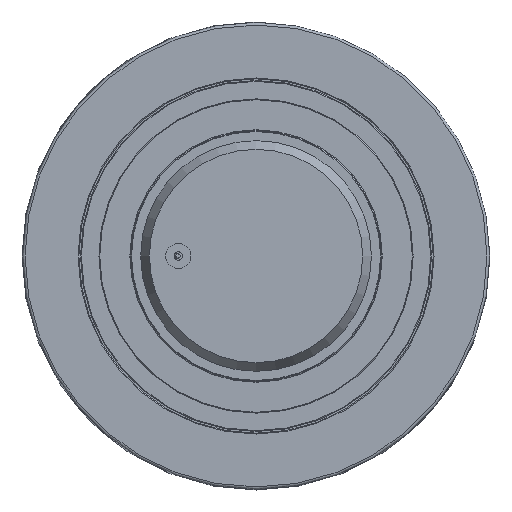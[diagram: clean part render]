
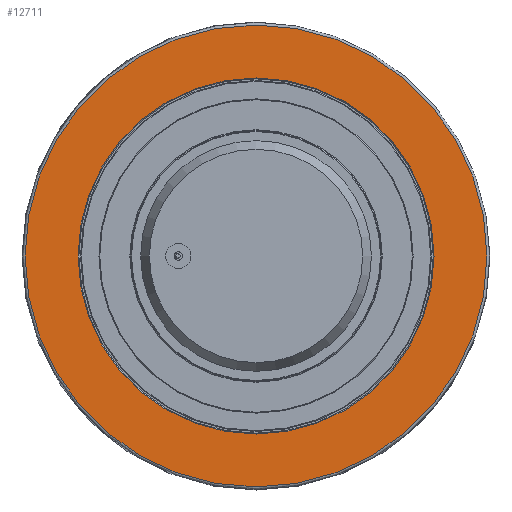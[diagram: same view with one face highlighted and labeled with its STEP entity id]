
A CAD part, left-side view. The second image highlights one B-rep face of the part: STEP entity #12711.
In plain terms, the highlighted planar face has unit normal (-1, 0, 0).
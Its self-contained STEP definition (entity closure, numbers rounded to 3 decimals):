
#55=FACE_BOUND('',#1270,.T.);
#80=PLANE('',#14655);
#611=FACE_OUTER_BOUND('',#1269,.T.);
#1269=EDGE_LOOP('',(#9696,#9697));
#1270=EDGE_LOOP('',(#9698));
#2929=CIRCLE('',#14473,138.148);
#2930=CIRCLE('',#14474,138.148);
#3109=CIRCLE('',#14656,106.5);
#5522=VERTEX_POINT('',#23622);
#5523=VERTEX_POINT('',#23624);
#5616=VERTEX_POINT('',#23902);
#7144=EDGE_CURVE('',#5522,#5523,#2929,.T.);
#7145=EDGE_CURVE('',#5523,#5522,#2930,.T.);
#7326=EDGE_CURVE('',#5616,#5616,#3109,.T.);
#9696=ORIENTED_EDGE('',*,*,#7145,.F.);
#9697=ORIENTED_EDGE('',*,*,#7144,.F.);
#9698=ORIENTED_EDGE('',*,*,#7326,.F.);
#12711=ADVANCED_FACE('',(#611,#55),#80,.T.);
#14473=AXIS2_PLACEMENT_3D('',#23625,#18316,#18317);
#14474=AXIS2_PLACEMENT_3D('',#23626,#18318,#18319);
#14655=AXIS2_PLACEMENT_3D('',#23901,#18682,#18683);
#14656=AXIS2_PLACEMENT_3D('',#23903,#18684,#18685);
#18316=DIRECTION('center_axis',(1.,0.,0.));
#18317=DIRECTION('ref_axis',(0.,0.,
-1.));
#18318=DIRECTION('center_axis',(1.,0.,0.));
#18319=DIRECTION('ref_axis',(0.,0.,
-1.));
#18682=DIRECTION('center_axis',(-1.,0.,0.));
#18683=DIRECTION('ref_axis',(0.,-1.,0.));
#18684=DIRECTION('center_axis',(-1.,0.,0.));
#18685=DIRECTION('ref_axis',(0.,0.,
-1.));
#23622=CARTESIAN_POINT('',(-108.983,-188.77,39.407));
#23624=CARTESIAN_POINT('',(-108.983,-50.623,177.555));
#23625=CARTESIAN_POINT('Origin',(-108.983,-50.623,39.407));
#23626=CARTESIAN_POINT('Origin',(-108.983,-50.623,39.407));
#23901=CARTESIAN_POINT('Origin',(-108.983,-50.623,162.215));
#23902=CARTESIAN_POINT('',(-108.983,-50.623,145.907));
#23903=CARTESIAN_POINT('Origin',(-108.983,-50.623,39.407));
